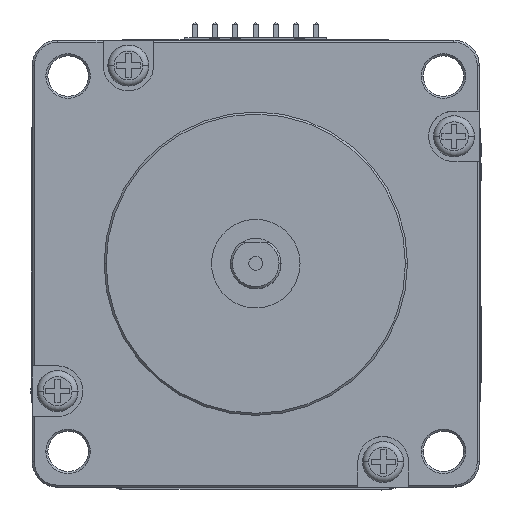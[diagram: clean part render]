
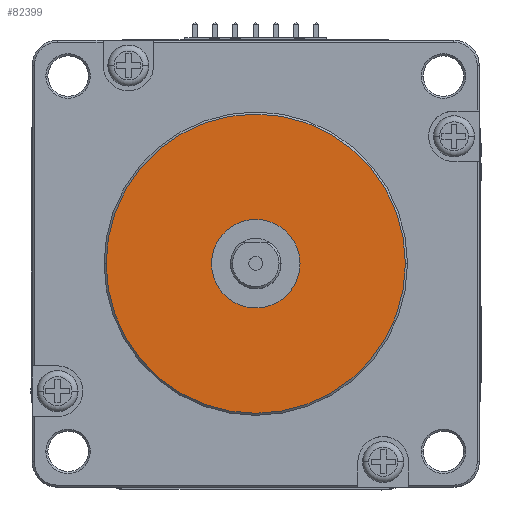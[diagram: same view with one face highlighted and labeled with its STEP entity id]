
A CAD part, top view. The second image highlights one B-rep face of the part: STEP entity #82399.
In plain terms, the highlighted planar face has unit normal (0, 0, 1).
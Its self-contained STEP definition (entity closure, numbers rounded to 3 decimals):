
#612 = ORIENTED_EDGE ( 'NONE', *, *, #25982, .T. ) ;
#2404 = AXIS2_PLACEMENT_3D ( 'NONE', #77329, #27338, #85682 ) ;
#3907 = VERTEX_POINT ( 'NONE', #8250 ) ;
#4717 = DIRECTION ( 'NONE',  ( 0., 0., 1. ) ) ;
#8250 = CARTESIAN_POINT ( 'NONE',  ( -18.796, 0., 1.524 ) ) ;
#9680 = VERTEX_POINT ( 'NONE', #52436 ) ;
#12013 = VERTEX_POINT ( 'NONE', #32084 ) ;
#13586 = EDGE_LOOP ( 'NONE', ( #43298, #50731 ) ) ;
#21095 = PLANE ( 'NONE',  #91059 ) ;
#23993 = CARTESIAN_POINT ( 'NONE',  ( 0., 0., 1.524 ) ) ;
#25982 = EDGE_CURVE ( 'NONE', #26651, #3907, #41544, .T. ) ;
#26651 = VERTEX_POINT ( 'NONE', #30104 ) ;
#27338 = DIRECTION ( 'NONE',  ( 0., 0., 1. ) ) ;
#28182 = DIRECTION ( 'NONE',  ( 0., 0., 1. ) ) ;
#30021 = EDGE_CURVE ( 'NONE', #9680, #12013, #89811, .T. ) ;
#30104 = CARTESIAN_POINT ( 'NONE',  ( 18.796, 0., 1.524 ) ) ;
#32084 = CARTESIAN_POINT ( 'NONE',  ( -5.563, 0., 1.524 ) ) ;
#32418 = DIRECTION ( 'NONE',  ( 1., 0., 0. ) ) ;
#36205 = EDGE_CURVE ( 'NONE', #12013, #9680, #59136, .T. ) ;
#41544 = CIRCLE ( 'NONE', #2404, 18.796 ) ;
#42340 = CARTESIAN_POINT ( 'NONE',  ( 0., 0., 1.524 ) ) ;
#43298 = ORIENTED_EDGE ( 'NONE', *, *, #36205, .F. ) ;
#50356 = AXIS2_PLACEMENT_3D ( 'NONE', #23993, #82380, #32418 ) ;
#50731 = ORIENTED_EDGE ( 'NONE', *, *, #30021, .F. ) ;
#50786 = CIRCLE ( 'NONE', #54951, 18.796 ) ;
#50792 = DIRECTION ( 'NONE',  ( 1., 0., 0. ) ) ;
#52436 = CARTESIAN_POINT ( 'NONE',  ( 5.563, 0., 1.524 ) ) ;
#53445 = ORIENTED_EDGE ( 'NONE', *, *, #59654, .T. ) ;
#54693 = CARTESIAN_POINT ( 'NONE',  ( 0., 0., 1.524 ) ) ;
#54951 = AXIS2_PLACEMENT_3D ( 'NONE', #42340, #100687, #50792 ) ;
#59136 = CIRCLE ( 'NONE', #50356, 5.563 ) ;
#59654 = EDGE_CURVE ( 'NONE', #3907, #26651, #50786, .T. ) ;
#63126 = DIRECTION ( 'NONE',  ( 1., 0., 0. ) ) ;
#77329 = CARTESIAN_POINT ( 'NONE',  ( 0., 0., 1.524 ) ) ;
#78163 = CARTESIAN_POINT ( 'NONE',  ( 0., 0., 1.524 ) ) ;
#82380 = DIRECTION ( 'NONE',  ( 0., 0., 1. ) ) ;
#82399 = ADVANCED_FACE ( 'NONE', ( #91880, #94531 ), #21095, .T. ) ;
#85682 = DIRECTION ( 'NONE',  ( 1., 0., 0. ) ) ;
#86510 = DIRECTION ( 'NONE',  ( 1., 0., 0. ) ) ;
#89811 = CIRCLE ( 'NONE', #99981, 5.563 ) ;
#91059 = AXIS2_PLACEMENT_3D ( 'NONE', #54693, #4717, #63126 ) ;
#91880 = FACE_OUTER_BOUND ( 'NONE', #100403, .T. ) ;
#94531 = FACE_BOUND ( 'NONE', #13586, .T. ) ;
#99981 = AXIS2_PLACEMENT_3D ( 'NONE', #78163, #28182, #86510 ) ;
#100403 = EDGE_LOOP ( 'NONE', ( #53445, #612 ) ) ;
#100687 = DIRECTION ( 'NONE',  ( 0., 0., 1. ) ) ;
